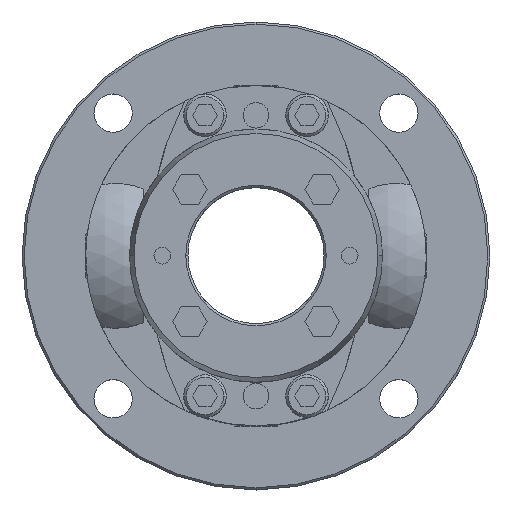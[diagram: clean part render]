
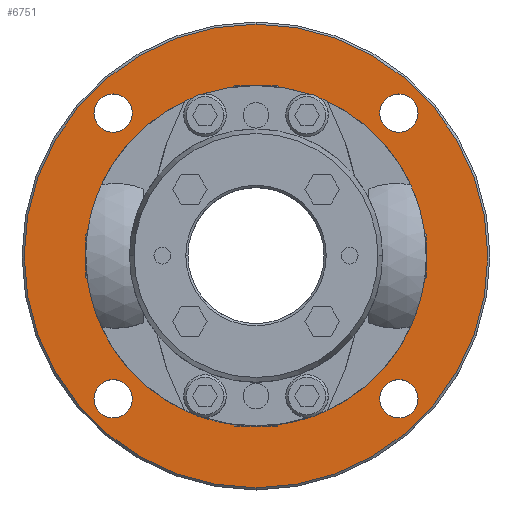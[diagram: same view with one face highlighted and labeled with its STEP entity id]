
A CAD part, top view. The second image highlights one B-rep face of the part: STEP entity #6751.
In plain terms, the highlighted planar face has unit normal (0, 0, 1).
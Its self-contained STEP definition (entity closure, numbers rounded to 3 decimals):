
#730=CARTESIAN_POINT('',(0.,-40.0,-16.0));
#731=VERTEX_POINT('',#730);
#847=CARTESIAN_POINT('',(0.,40.0,-16.0));
#848=VERTEX_POINT('',#847);
#855=CARTESIAN_POINT('',(0.0,0.0,-16.0));
#856=DIRECTION('',(0.0,0.0,-1.0));
#857=DIRECTION('',(0.0,1.0,0.0));
#858=AXIS2_PLACEMENT_3D('',#855,#856,#857);
#859=CIRCLE('',#858,40.0);
#860=EDGE_CURVE('',#731,#848,#859,.T.);
#1357=CARTESIAN_POINT('',(-33.588,38.088,-16.0));
#1358=VERTEX_POINT('',#1357);
#1367=CARTESIAN_POINT('',(-33.588,29.088,-16.0));
#1368=VERTEX_POINT('',#1367);
#1369=CARTESIAN_POINT('',(-33.588,33.588,-16.0));
#1370=DIRECTION('',(0.0,0.0,-1.0));
#1371=DIRECTION('',(0.0,1.0,0.0));
#1372=AXIS2_PLACEMENT_3D('',#1369,#1370,#1371);
#1373=CIRCLE('',#1372,4.5);
#1374=EDGE_CURVE('',#1368,#1358,#1373,.T.);
#1399=CARTESIAN_POINT('',(33.588,38.088,-16.0));
#1400=VERTEX_POINT('',#1399);
#1409=CARTESIAN_POINT('',(33.588,29.088,-16.0));
#1410=VERTEX_POINT('',#1409);
#1411=CARTESIAN_POINT('',(33.588,33.588,-16.0));
#1412=DIRECTION('',(0.0,0.0,-1.0));
#1413=DIRECTION('',(0.0,1.0,0.0));
#1414=AXIS2_PLACEMENT_3D('',#1411,#1412,#1413);
#1415=CIRCLE('',#1414,4.5);
#1416=EDGE_CURVE('',#1410,#1400,#1415,.T.);
#1441=CARTESIAN_POINT('',(33.588,-29.088,-16.0));
#1442=VERTEX_POINT('',#1441);
#1451=CARTESIAN_POINT('',(33.588,-38.088,-16.0));
#1452=VERTEX_POINT('',#1451);
#1453=CARTESIAN_POINT('',(33.588,-33.588,-16.0));
#1454=DIRECTION('',(0.0,0.0,-1.0));
#1455=DIRECTION('',(0.0,1.0,0.0));
#1456=AXIS2_PLACEMENT_3D('',#1453,#1454,#1455);
#1457=CIRCLE('',#1456,4.5);
#1458=EDGE_CURVE('',#1452,#1442,#1457,.T.);
#1483=CARTESIAN_POINT('',(-33.588,-29.088,-16.0));
#1484=VERTEX_POINT('',#1483);
#1493=CARTESIAN_POINT('',(-33.588,-38.088,-16.0));
#1494=VERTEX_POINT('',#1493);
#1495=CARTESIAN_POINT('',(-33.588,-33.588,-16.0));
#1496=DIRECTION('',(0.0,0.0,-1.0));
#1497=DIRECTION('',(0.0,1.0,0.0));
#1498=AXIS2_PLACEMENT_3D('',#1495,#1496,#1497);
#1499=CIRCLE('',#1498,4.5);
#1500=EDGE_CURVE('',#1494,#1484,#1499,.T.);
#2031=CARTESIAN_POINT('',(0.,-54.5,-16.0));
#2032=VERTEX_POINT('',#2031);
#2041=CARTESIAN_POINT('',(0.,54.5,-16.0));
#2042=VERTEX_POINT('',#2041);
#2043=CARTESIAN_POINT('',(0.0,0.0,-16.0));
#2044=DIRECTION('',(0.0,0.0,-1.0));
#2045=DIRECTION('',(0.0,-1.0,0.0));
#2046=AXIS2_PLACEMENT_3D('',#2043,#2044,#2045);
#2047=CIRCLE('',#2046,54.5);
#2048=EDGE_CURVE('',#2032,#2042,#2047,.T.);
#6682=CARTESIAN_POINT('',(0.0,0.0,-16.0));
#6683=DIRECTION('',(0.0,0.0,-1.0));
#6684=DIRECTION('',(0.0,-1.0,0.0));
#6685=AXIS2_PLACEMENT_3D('',#6682,#6683,#6684);
#6686=CIRCLE('',#6685,54.5);
#6687=EDGE_CURVE('',#2042,#2032,#6686,.T.);
#6692=CARTESIAN_POINT('',(0.,5.,-16.0));
#6693=DIRECTION('',(0.0,0.0,1.0));
#6694=DIRECTION('',(0.0,1.0,0.0));
#6695=AXIS2_PLACEMENT_3D('',#6692,#6693,#6694);
#6696=PLANE('',#6695);
#6697=ORIENTED_EDGE('',*,*,#6687,.F.);
#6698=ORIENTED_EDGE('',*,*,#2048,.F.);
#6699=EDGE_LOOP('',(#6697,#6698));
#6700=FACE_OUTER_BOUND('',#6699,.T.);
#6701=ORIENTED_EDGE('',*,*,#860,.T.);
#6702=CARTESIAN_POINT('',(0.0,0.0,-16.0));
#6703=DIRECTION('',(0.0,0.0,-1.0));
#6704=DIRECTION('',(0.0,1.0,0.0));
#6705=AXIS2_PLACEMENT_3D('',#6702,#6703,#6704);
#6706=CIRCLE('',#6705,40.0);
#6707=EDGE_CURVE('',#848,#731,#6706,.T.);
#6708=ORIENTED_EDGE('',*,*,#6707,.T.);
#6709=EDGE_LOOP('',(#6701,#6708));
#6710=FACE_BOUND('',#6709,.T.);
#6711=ORIENTED_EDGE('',*,*,#1374,.T.);
#6712=CARTESIAN_POINT('',(-33.588,33.588,-16.0));
#6713=DIRECTION('',(0.0,0.0,-1.0));
#6714=DIRECTION('',(0.0,1.0,0.0));
#6715=AXIS2_PLACEMENT_3D('',#6712,#6713,#6714);
#6716=CIRCLE('',#6715,4.5);
#6717=EDGE_CURVE('',#1358,#1368,#6716,.T.);
#6718=ORIENTED_EDGE('',*,*,#6717,.T.);
#6719=EDGE_LOOP('',(#6711,#6718));
#6720=FACE_BOUND('',#6719,.T.);
#6721=ORIENTED_EDGE('',*,*,#1416,.T.);
#6722=CARTESIAN_POINT('',(33.588,33.588,-16.0));
#6723=DIRECTION('',(0.0,0.0,-1.0));
#6724=DIRECTION('',(0.0,1.0,0.0));
#6725=AXIS2_PLACEMENT_3D('',#6722,#6723,#6724);
#6726=CIRCLE('',#6725,4.5);
#6727=EDGE_CURVE('',#1400,#1410,#6726,.T.);
#6728=ORIENTED_EDGE('',*,*,#6727,.T.);
#6729=EDGE_LOOP('',(#6721,#6728));
#6730=FACE_BOUND('',#6729,.T.);
#6731=ORIENTED_EDGE('',*,*,#1458,.T.);
#6732=CARTESIAN_POINT('',(33.588,-33.588,-16.0));
#6733=DIRECTION('',(0.0,0.0,-1.0));
#6734=DIRECTION('',(0.0,1.0,0.0));
#6735=AXIS2_PLACEMENT_3D('',#6732,#6733,#6734);
#6736=CIRCLE('',#6735,4.5);
#6737=EDGE_CURVE('',#1442,#1452,#6736,.T.);
#6738=ORIENTED_EDGE('',*,*,#6737,.T.);
#6739=EDGE_LOOP('',(#6731,#6738));
#6740=FACE_BOUND('',#6739,.T.);
#6741=ORIENTED_EDGE('',*,*,#1500,.T.);
#6742=CARTESIAN_POINT('',(-33.588,-33.588,-16.0));
#6743=DIRECTION('',(0.0,0.0,-1.0));
#6744=DIRECTION('',(0.0,1.0,0.0));
#6745=AXIS2_PLACEMENT_3D('',#6742,#6743,#6744);
#6746=CIRCLE('',#6745,4.5);
#6747=EDGE_CURVE('',#1484,#1494,#6746,.T.);
#6748=ORIENTED_EDGE('',*,*,#6747,.T.);
#6749=EDGE_LOOP('',(#6741,#6748));
#6750=FACE_BOUND('',#6749,.T.);
#6751=ADVANCED_FACE('',(#6700,#6710,#6720,#6730,#6740,#6750),#6696,.T.);
